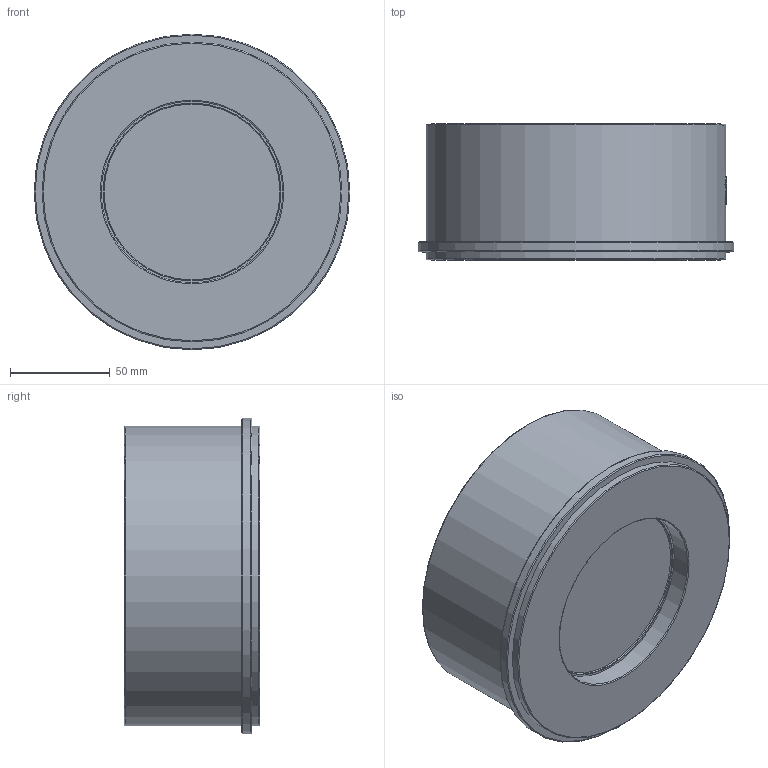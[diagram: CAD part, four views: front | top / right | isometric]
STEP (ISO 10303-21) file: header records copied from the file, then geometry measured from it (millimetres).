
FILE_DESCRIPTION(('STEP AP242'), '1');
FILE_NAME('VCS3232-Fb Êëàïàí îáðàòíûé ïðóæèííûé DN.ru Äó100 Ðó40', '', ('UNSPECIFIED'), ('UNSPECIFIED'), 'C3D Converter', 'C3D Toolkit', '');
FILE_SCHEMA(('AP242_MANAGED_MODEL_BASED_3D_ENGINEERING_MIM_LF { 1 0 10303 442 1 1 4 }'));
Length unit declared in the file: millimetre
Products named in the file (1): VCS3232-Fb
Bounding box: 158 x 68 x 158 mm (x, y, z)
Volume: 466727.9 mm3; surface area: 132321.8 mm2
Topology: 1 solids, 1 shells, 137 faces, 363 edges, 244 vertices
Faces by surface type: plane 53, extrusion 40, cylinder 29, torus 10, bspline 3, cone 2
Full cylindrical faces by diameter (mm): 17 x2, 33 x2, 89 x1, 91 x1, 99 x1, 100 x1, 110 x1, 134 x1, 150 x2, 158 x1
Entity records: 10287 total; most frequent: CARTESIAN_POINT 7032, ORIENTED_EDGE 670, DIRECTION 545, EDGE_CURVE 335, VERTEX_POINT 244, AXIS2_PLACEMENT_3D 199, EDGE_LOOP 189, FACE_BOUND 168
